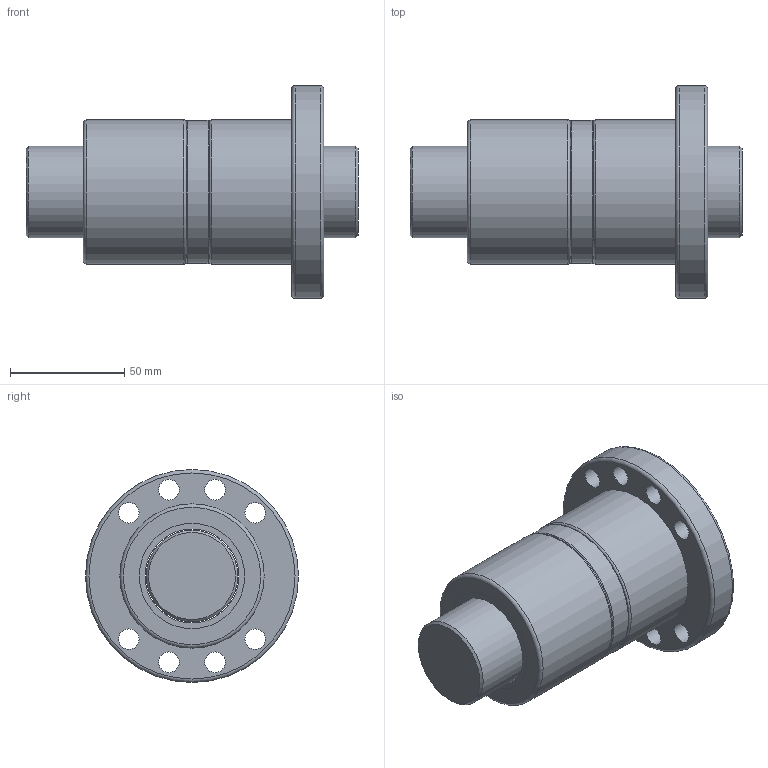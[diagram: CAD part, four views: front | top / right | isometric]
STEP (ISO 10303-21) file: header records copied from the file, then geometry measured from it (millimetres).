
FILE_DESCRIPTION(/* description */ (''),/* implementation_level */ '2;1');
FILE_NAME(/* name */ 'DFU4005',/* time_stamp */ '2007-10-26T10:58:14+08:00',/* author */ (''),/* organization */ (''),/* preprocessor_version */ 'ST-DEVELOPER v9',/* originating_system */ 'EDS PLM SOLUTIONS - UNIGRAPHICS NX 1.0',/* authorisation */ '');
FILE_SCHEMA (('CONFIG_CONTROL_DESIGN'));
Length unit declared in the file: millimetre
Products named in the file (1): FANNDA0400cz
Bounding box: 145 x 93 x 93 mm (x, y, z)
Volume: 414134.2 mm3; surface area: 80451.2 mm2
Topology: 6 solids, 6 shells, 46 faces, 92 edges, 61 vertices
Faces by surface type: cylinder 22, plane 15, torus 7, cone 2
Full cylindrical faces by diameter (mm): 9 x8, 40 x1, 41 x5, 46 x4, 62.5 x1, 63 x2, 93 x1
Entity records: 1122 total; most frequent: DIRECTION 200, CARTESIAN_POINT 153, EDGE_LOOP 106, ORIENTED_EDGE 106, AXIS2_PLACEMENT_3D 100, FACE_BOUND 89, VERTEX_POINT 53, EDGE_CURVE 53
